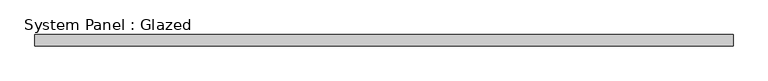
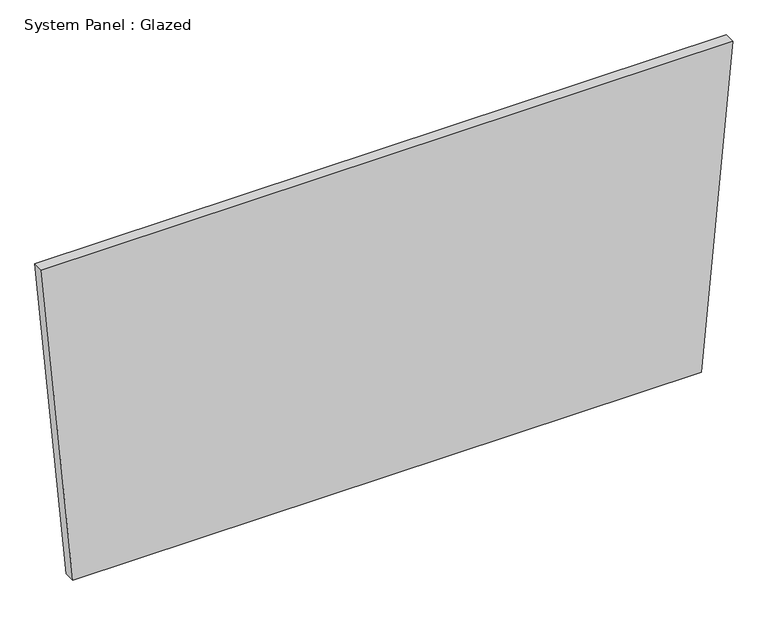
"""IFC4 building model written with IfcOpenShell, lengths in millimetres: plate geometry, System Panel : Glazed."""

from ifc_helpers import new_model, si_unit, frame, origin, place, context, project, spatial, polyline, outline, extrude, source, transform, mapped, element, save


def system_panel_glazed_3d0a4322(model_context):
    return source(origin(), model_context, "Body", "SweptSolid", [
        extrude(outline(polyline([(0.0, -704.4692492), (0.0, 704.4692492), (758.7366017, 774.9161741), (758.7366017, -774.9161741), (0.0, -704.4692492)])), frame((0.0, -44.45, 0.0), z_axis=(0.0, 1.0, 0.0), x_axis=(0.0, 0.0, 1.0)), (0.0, 0.0, 1.0), 25.4),
    ])


if __name__ == "__main__":
    model = new_model("IFC4")
    model_context = context("Model", 3, world=origin())
    ifc_project = project(units=[si_unit("LENGTHUNIT", "METRE", prefix="MILLI")], contexts=[model_context])
    site = spatial("IfcSite", under=ifc_project)
    building = spatial("IfcBuilding", under=site)
    placement = place(None, origin())
    system_panel_glazed_shape = system_panel_glazed_3d0a4322(model_context)
    element("IfcPlate", 1, ObjectType="System Panel : Glazed", at=placement, inside=building, context=model_context, shape_type="MappedRepresentation", body=[
        mapped(system_panel_glazed_shape, transform((0.0, 0.0, 0.0), x_axis=(1.0, 0.0, 0.0), y_axis=(0.0, 1.0, 0.0), z_axis=(0.0, 0.0, 1.0))),
    ])
    save(model, "model.ifc")
